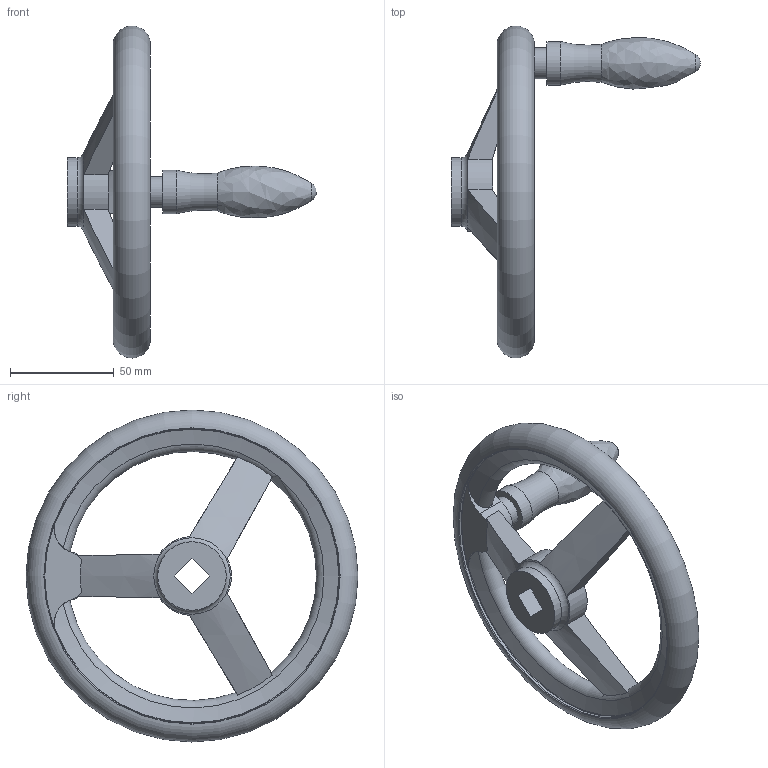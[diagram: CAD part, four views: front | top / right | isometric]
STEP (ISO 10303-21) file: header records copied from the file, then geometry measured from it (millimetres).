
FILE_DESCRIPTION( ( 'STEP AP203' ), '1' );
FILE_NAME( 'C:/Temp/Ganter_Step_05_03_2020/data/1_3/din_950/din_950_v/din_950_v_d/Handwheel DIN 950-AL-160-V12-D.stp', '2020-03-05T10:31:39', ( 'License CC BY-ND 4.0' ), ( 'CADENAS' ), ' ', 'PARTsolutions', ' ' );
FILE_SCHEMA( ( 'CONFIG_CONTROL_DESIGN' ) );
Length unit declared in the file: millimetre
Products named in the file (1): _Handwheel DIN 950-AL-160-V12-D
Bounding box: 120 x 159.99 x 159.99 mm (x, y, z)
Volume: 177423.2 mm3; surface area: 44179 mm2
Topology: 1 solids, 1 shells, 44 faces, 123 edges, 78 vertices
Faces by surface type: plane 15, cylinder 12, torus 11, cone 4, bspline 1, sphere 1
Full cylindrical faces by diameter (mm): 15 x1, 21 x1, 33 x2, 142 x2
Entity records: 1665 total; most frequent: CARTESIAN_POINT 614, DIRECTION 198, ORIENTED_EDGE 198, EDGE_CURVE 99, AXIS2_PLACEMENT_3D 88, VERTEX_POINT 74, EDGE_LOOP 67, FACE_OUTER_BOUND 59
